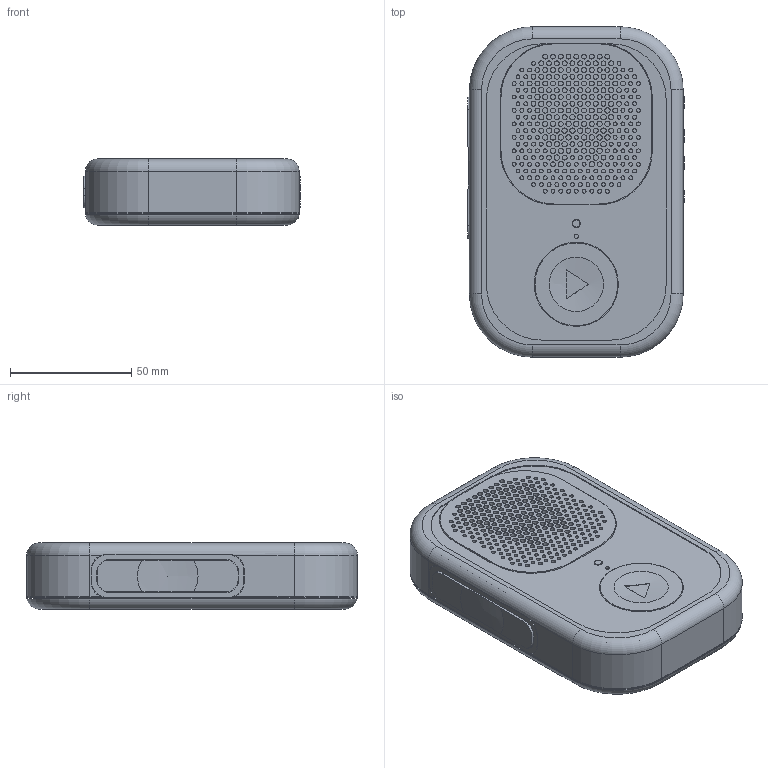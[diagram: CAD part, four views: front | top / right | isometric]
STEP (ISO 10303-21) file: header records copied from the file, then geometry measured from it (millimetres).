
FILE_DESCRIPTION(/* description */ (''),/* implementation_level */ '2;1');
FILE_NAME(/* name */ 'Walkie_One_5_2_R8_27_2_CASE_FUSION.step',/* time_stamp */ '2026-09-09T11:52:13-07:00',/* author */ (''),/* organization */ (''),/* preprocessor_version */ 'ST-DEVELOPER v20.1',/* originating_system */ 'Autodesk Translation Framework v15.8.0.0',/* authorisation */ '');
FILE_SCHEMA (('AUTOMOTIVE_DESIGN { 1 0 10303 214 3 1 1 }'));
Products named in the file (83): 2026-09-09-11-52-13-482; 2026-09-09-11-52-13-482_1; 2026-09-09-11-52-13-482_2; 2026-09-09-11-52-13-488; 2026-09-09-11-52-13-488_1; 2026-09-09-11-52-13-489; 2026-09-09-11-52-13-489_1; 2026-09-09-11-52-13-490; 2026-09-09-11-52-13-490_1; 2026-09-09-11-52-13-490_2; 2026-09-09-11-52-13-490_3; 2026-09-09-11-52-13-493; 2026-09-09-11-52-13-493_1; 2026-09-09-11-52-13-493_2; 2026-09-09-11-52-13-493_3; 2026-09-09-11-52-13-493_4; 2026-09-09-11-52-13-493_5; 2026-09-09-11-52-13-494; 2026-09-09-11-52-13-494_1; 2026-09-09-11-52-13-495; 2026-09-09-11-52-13-495_1; 2026-09-09-11-52-13-495_2; 2026-09-09-11-52-13-495_3; 2026-09-09-11-52-13-495_4; 2026-09-09-11-52-13-495_5; 2026-09-09-11-52-13-495_6; 2026-09-09-11-52-13-495_7; 2026-09-09-11-52-13-496; 2026-09-09-11-52-13-496_1; 2026-09-09-11-52-13-496_2; 2026-09-09-11-52-13-496_3; 2026-09-09-11-52-13-496_4; 2026-09-09-11-52-13-496_5; 2026-09-09-11-52-13-497; 2026-09-09-11-52-13-497_1; 2026-09-09-11-52-13-497_2; 2026-09-09-11-52-13-497_3; 2026-09-09-11-52-13-497_4; 2026-09-09-11-52-13-498; 2026-09-09-11-52-13-498_1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
Assembly tree (82 placements, depth 3):
  2026-09-09-11-52-13-482
    2026-09-09-11-52-13-482_1
      2026-09-09-11-52-13-482_2
    2026-09-09-11-52-13-488
      2026-09-09-11-52-13-488_1
    2026-09-09-11-52-13-489
      2026-09-09-11-52-13-489_1
    2026-09-09-11-52-13-490
      2026-09-09-11-52-13-490_1
    2026-09-09-11-52-13-490_2
      2026-09-09-11-52-13-490_3
    2026-09-09-11-52-13-493
      2026-09-09-11-52-13-493_1
    2026-09-09-11-52-13-493_2
      2026-09-09-11-52-13-493_3
    2026-09-09-11-52-13-493_4
      2026-09-09-11-52-13-493_5
    2026-09-09-11-52-13-494
      2026-09-09-11-52-13-494_1
    2026-09-09-11-52-13-495
      2026-09-09-11-52-13-495_1
    2026-09-09-11-52-13-495_2
      2026-09-09-11-52-13-495_3
    2026-09-09-11-52-13-495_4
      2026-09-09-11-52-13-495_5
    2026-09-09-11-52-13-495_6
      2026-09-09-11-52-13-495_7
    2026-09-09-11-52-13-496
      2026-09-09-11-52-13-496_1
    2026-09-09-11-52-13-496_2
      2026-09-09-11-52-13-496_3
    2026-09-09-11-52-13-496_4
      2026-09-09-11-52-13-496_5
    2026-09-09-11-52-13-497
      2026-09-09-11-52-13-497_1
    2026-09-09-11-52-13-497_2
      2026-09-09-11-52-13-497_3
    2026-09-09-11-52-13-497_4
      2026-09-09-11-52-13-498
    2026-09-09-11-52-13-498_1
      2026-09-09-11-52-13-498_2
    2026-09-09-11-52-13-498_3
      2026-09-09-11-52-13-498_4
    2026-09-09-11-52-13-498_5
      2026-09-09-11-52-13-498_6
    2026-09-09-11-52-13-498_7
      2026-09-09-11-52-13-498_8
    2026-09-09-11-52-13-498_9
      2026-09-09-11-52-13-498_10
    2026-09-09-11-52-13-499
      2026-09-09-11-52-13-499_1
    2026-09-09-11-52-13-499_2
      2026-09-09-11-52-13-499_3
    2026-09-09-11-52-13-499_4
      2026-09-09-11-52-13-499_5
    2026-09-09-11-52-13-499_6
      2026-09-09-11-52-13-499_7
    2026-09-09-11-52-13-499_8
      2026-09-09-11-52-13-499_9
    2026-09-09-11-52-13-499_10
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Bounding box: 89.16 x 136 x 27.2 mm (x, y, z)
Volume: 92437.9 mm3; surface area: 139928.4 mm2
Topology: 41 solids, 43 shells, 2083 faces, 5902 edges, 3906 vertices
Faces by surface type: plane 1231, cylinder 796, torus 44, cone 8, sphere 4
Full cylindrical faces by diameter (mm): 1.6 x157, 1.7 x10, 1.8 x2, 2 x111, 2.2 x62, 2.8 x4, 3 x1, 3.4 x1, 5 x2, 5.2 x2, 5.3 x1, 5.4 x2, 6.2 x1, 7 x1, 8 x1, 8.4 x1, 34 x1, 34.6 x1, 36.4 x2, 39.6 x1
Entity records: 72663 total; most frequent: CARTESIAN_POINT 13203, DIRECTION 12122, ORIENTED_EDGE 11802, EDGE_CURVE 5901, LINE 4080, VECTOR 4080, AXIS2_PLACEMENT_3D 4021, VERTEX_POINT 3906
